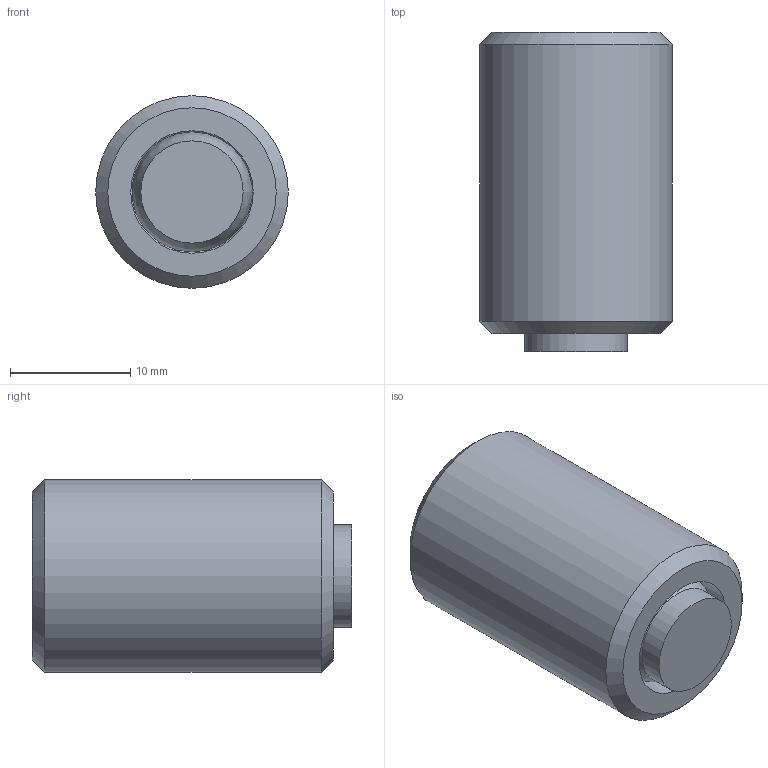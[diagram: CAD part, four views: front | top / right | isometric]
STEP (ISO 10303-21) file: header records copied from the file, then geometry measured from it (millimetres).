
FILE_DESCRIPTION( ( 'STEP AP203' ), '1' );
FILE_NAME( 'C:/Temp/Ganter_Step_05_03_2020/data/3_2/gn_709_8/gn_709_8b/Clamping pad GN 709.8-M16-25-B (0).stp', '2020-03-13T05:38:00', ( 'License CC BY-ND 4.0' ), ( 'CADENAS' ), ' ', 'PARTsolutions', ' ' );
FILE_SCHEMA( ( 'CONFIG_CONTROL_DESIGN' ) );
Length unit declared in the file: millimetre
Products named in the file (3): Clamping pad GN 709.8-M16-25-B (0); _Pendelelement GN 709.8-M16-25-B-1; _Pendelelement GN 709.8-M16-25-B-2
Assembly tree (2 placements, depth 2):
  Clamping pad GN 709.8-M16-25-B (0)
    _Pendelelement GN 709.8-M16-25-B-1
    _Pendelelement GN 709.8-M16-25-B-2
Bounding box: 16 x 26.5 x 16 mm (x, y, z)
Volume: 4563.3 mm3; surface area: 2345.9 mm2
Topology: 2 solids, 2 shells, 18 faces, 36 edges, 23 vertices
Faces by surface type: plane 11, cone 3, cylinder 3, sphere 1
Full cylindrical faces by diameter (mm): 8.5 x1, 10.18 x1, 16 x1
Entity records: 524 total; most frequent: DIRECTION 78, CARTESIAN_POINT 70, ORIENTED_EDGE 54, AXIS2_PLACEMENT_3D 30, EDGE_CURVE 27, EDGE_LOOP 26, VERTEX_POINT 22, FACE_OUTER_BOUND 21
